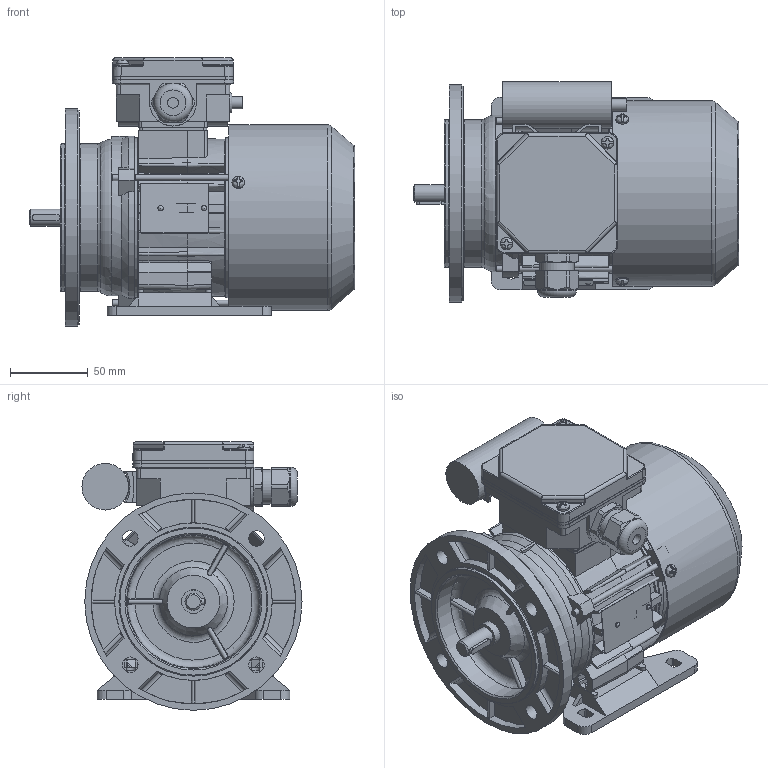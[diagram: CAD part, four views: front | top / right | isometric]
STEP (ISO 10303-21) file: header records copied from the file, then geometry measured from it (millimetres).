
FILE_DESCRIPTION( ( 'Unknown' ), '1' );
FILE_NAME( 'G:/Poczta Tk-1/STP/w.m.63/SEh63/SE(M)Lh63-B.stp', 'Unknown', ( 'K. Szlosek' ), ( 'BESEL S.A.' ), 'PSStep 17.0.49', 'Unknown', ' ' );
FILE_SCHEMA( ( 'AUTOMOTIVE_DESIGN { 1 0 10303 214 1 1 1 1 }' ) );
Length unit declared in the file: millimetre
Products named in the file (33): Assem1; K3-5320 Tarcza łożyskowa P Sg63; K4-2320 Uszczelka nr 1 Sh71,80; Wpust A4x4x18; K4-2820 Uszczelka nr 2 Sh71,80; K2-0860 Pokrywka skrzynki zaciskowej; Wkręt samogwintujący M4x16; K4-0898 Tulejka uszczelniająca; Kondensator zb 8-10uF; K2-1769 Przewietrznik Sg63; Wkręt samogwintujący M4x8; K1-1107 Łapa Sg63-.. w. robocza; K3-9974 wał Sh63-A,B standard; K3-9973 Kadłub ze stojanem wykończonym Sh63-B; K3-9440 Podstawa  skrzynki zaciskowej SEhR71-D; K3-1974 Uchwyt kondensatora (mały); K1-1110 Tarcza kołnierzowa nowa SKg63-..; K3-5321 osłona przewietrznika Sg63; Tabliczka znamionowa 32x44; Śruba ściągająca E_M4x85; Łożysko 6202; Dławnica M20x1,5; Nitokołek A 2x6
Assembly tree (49 placements, depth 2):
  Assem1
    K3-5320 Tarcza łożyskowa P Sg63
    K4-2320 Uszczelka nr 1 Sh71,80
    Wpust A4x4x18
    K4-2820 Uszczelka nr 2 Sh71,80
    K2-0860 Pokrywka skrzynki zaciskowej
    Wkręt samogwintujący M4x16  x2
    K4-0898 Tulejka uszczelniająca
    Kondensator zb 8-10uF
    K2-1769 Przewietrznik Sg63
    Wkręt samogwintujący M4x8  x3
    K1-1107 Łapa Sg63-.. w. robocza
    K3-9974 wał Sh63-A,B standard
    K3-9973 Kadłub ze stojanem wykończonym Sh63-B
    K3-9440 Podstawa  skrzynki zaciskowej SEhR71-D
    K3-1974 Uchwyt kondensatora (mały)
    K1-1110 Tarcza kołnierzowa nowa SKg63-..
    K3-5321 osłona przewietrznika Sg63
    Tabliczka znamionowa 32x44
    Śruba ściągająca E_M4x85  x3
    Łożysko 6202  x2
    Łożysko 6202  x2
    Łożysko 6202  x2
    Łożysko 6202  x2
    Łożysko 6202  x2
    Łożysko 6202  x2
    Łożysko 6202  x2
    Łożysko 6202  x2
    Łożysko 6202  x2
    Łożysko 6202  x2
    Łożysko 6202  x2
    Dławnica M20x1,5
    Nitokołek A 2x6  x2
Bounding box: 209.5 x 141.82 x 173 mm (x, y, z)
Volume: 638012.3 mm3; surface area: 390111.8 mm2
Topology: 49 solids, 67 shells, 2051 faces, 5631 edges, 3660 vertices
Faces by surface type: plane 1052, cylinder 617, cone 128, torus 116, bspline 99, sphere 39
Full cylindrical faces by diameter (mm): 2 x2, 2.4 x2, 3 x1, 3.3 x3, 3.5 x2, 3.7 x10, 4 x8, 4.5 x4, 4.6 x1, 4.8 x4, 5 x4, 5.8 x4, 6.5 x1, 7 x4, 8 x7, 10 x6, 11 x1, 12.9 x1, 13.1 x1, 13.5 x1, 15 x4, 15.4 x2, 18.38 x1, 18.5 x1, 19 x2, 19.5 x1, 20 x2, 20.1 x1, 21.52 x4, 22.3 x1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
Entity records: 86668 total; most frequent: CARTESIAN_POINT 26358, ORIENTED_EDGE 9776, DIRECTION 9496, EDGE_CURVE 4888, AXIS2_PLACEMENT_3D 3491, VERTEX_POINT 3328, LINE 2514, VECTOR 2514
